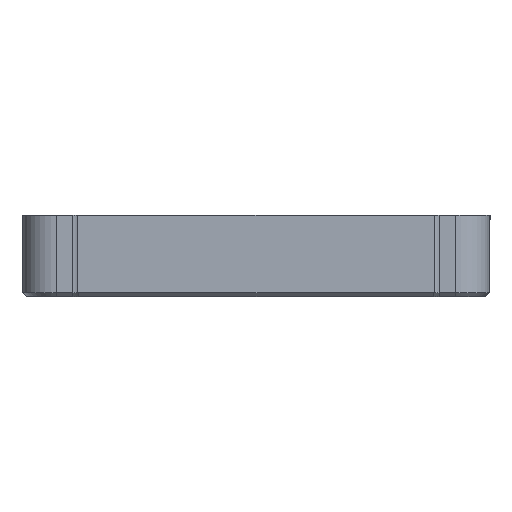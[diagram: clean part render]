
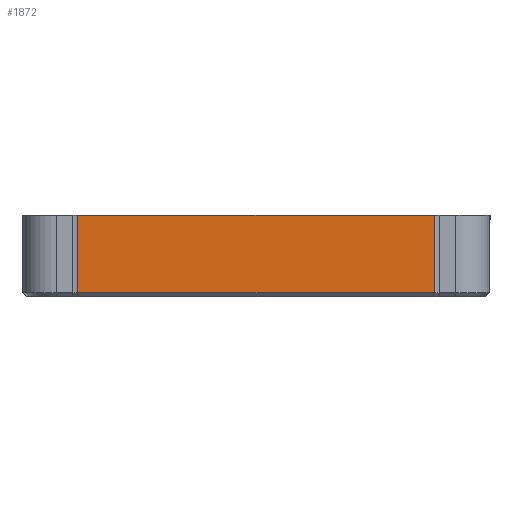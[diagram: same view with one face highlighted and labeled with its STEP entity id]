
A CAD part, front view. The second image highlights one B-rep face of the part: STEP entity #1872.
In plain terms, the highlighted planar face has unit normal (0, -1, 0).
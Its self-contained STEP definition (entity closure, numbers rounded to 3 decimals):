
#34 = DIRECTION ( 'NONE',  ( -1., 0., 0. ) ) ;
#178 = EDGE_CURVE ( 'NONE', #790, #1444, #286, .T. ) ;
#223 = CARTESIAN_POINT ( 'NONE',  ( 87.502, -165., 40. ) ) ;
#270 = VERTEX_POINT ( 'NONE', #223 ) ;
#280 = ORIENTED_EDGE ( 'NONE', *, *, #1053, .F. ) ;
#286 = LINE ( 'NONE', #1195, #568 ) ;
#320 = DIRECTION ( 'NONE',  ( 1., 0., 0. ) ) ;
#388 = VERTEX_POINT ( 'NONE', #712 ) ;
#412 = DIRECTION ( 'NONE',  ( 0., 0., 1. ) ) ;
#484 = FACE_OUTER_BOUND ( 'NONE', #823, .T. ) ;
#521 = CARTESIAN_POINT ( 'NONE',  ( -87.502, -165., 2. ) ) ;
#535 = ORIENTED_EDGE ( 'NONE', *, *, #1760, .T. ) ;
#568 = VECTOR ( 'NONE', #320, 1000. ) ;
#599 = CARTESIAN_POINT ( 'NONE',  ( 87.502, -165., 2. ) ) ;
#660 = CARTESIAN_POINT ( 'NONE',  ( 42.502, -165., 7. ) ) ;
#676 = VECTOR ( 'NONE', #915, 1000. ) ;
#712 = CARTESIAN_POINT ( 'NONE',  ( -87.502, -165., 40. ) ) ;
#790 = VERTEX_POINT ( 'NONE', #521 ) ;
#802 = LINE ( 'NONE', #935, #676 ) ;
#823 = EDGE_LOOP ( 'NONE', ( #280, #1765, #1530, #535 ) ) ;
#887 = CARTESIAN_POINT ( 'NONE',  ( 87.502, -165., 7. ) ) ;
#900 = CARTESIAN_POINT ( 'NONE',  ( 53., -165., 40. ) ) ;
#915 = DIRECTION ( 'NONE',  ( 0., 0., 1. ) ) ;
#935 = CARTESIAN_POINT ( 'NONE',  ( -87.502, -165., 7. ) ) ;
#976 = VECTOR ( 'NONE', #412, 1000. ) ;
#1053 = EDGE_CURVE ( 'NONE', #790, #388, #802, .T. ) ;
#1067 = LINE ( 'NONE', #900, #1501 ) ;
#1176 = DIRECTION ( 'NONE',  ( -1., 0., 0. ) ) ;
#1195 = CARTESIAN_POINT ( 'NONE',  ( 42.502, -165., 2. ) ) ;
#1415 = PLANE ( 'NONE',  #1595 ) ;
#1431 = EDGE_CURVE ( 'NONE', #1444, #270, #1780, .T. ) ;
#1444 = VERTEX_POINT ( 'NONE', #599 ) ;
#1501 = VECTOR ( 'NONE', #1176, 1000. ) ;
#1527 = DIRECTION ( 'NONE',  ( 0., 1., 0. ) ) ;
#1530 = ORIENTED_EDGE ( 'NONE', *, *, #1431, .T. ) ;
#1595 = AXIS2_PLACEMENT_3D ( 'NONE', #660, #1527, #34 ) ;
#1760 = EDGE_CURVE ( 'NONE', #270, #388, #1067, .T. ) ;
#1765 = ORIENTED_EDGE ( 'NONE', *, *, #178, .T. ) ;
#1780 = LINE ( 'NONE', #887, #976 ) ;
#1872 = ADVANCED_FACE ( 'NONE', ( #484 ), #1415, .F. ) ;
